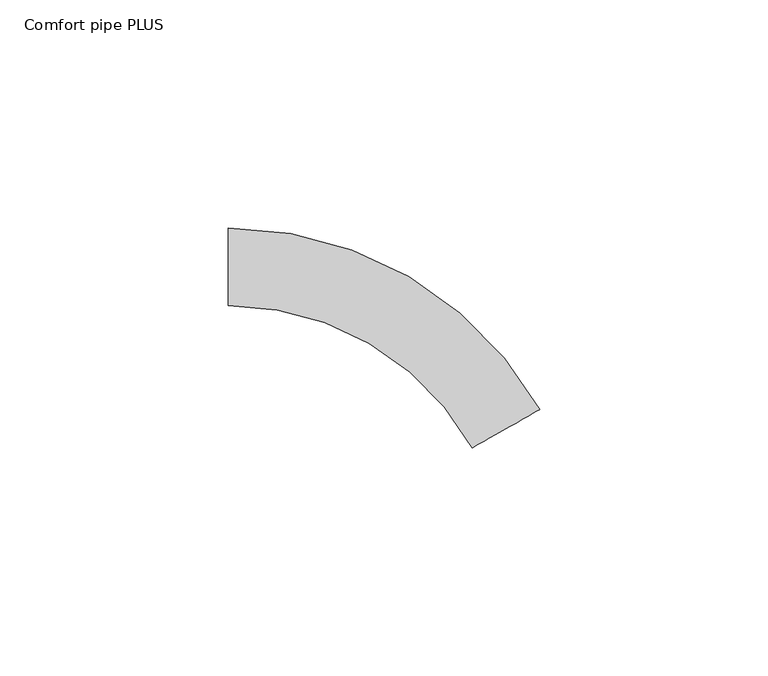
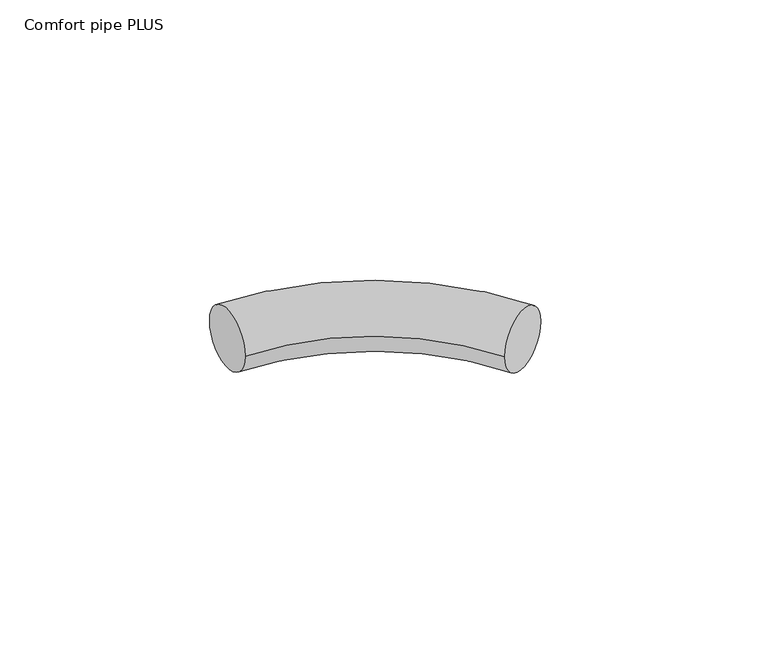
"""IFC4 building model written with IfcOpenShell, lengths in millimetres: pipe fitting geometry, 400_5-_Uponor_curved_Elbow : Comfort pipe PLUS."""

from ifc_helpers import new_model, si_unit, point, frame, origin, place, context, project, spatial, circle_curve, ellipse_curve, trimmed, source, transform, mapped, element, save
from ifc_brep_helpers import plane_surface, revolved_surface, advanced_brep


def comfort_pipe_plus_850c115f(model_context):
    return source(origin(), model_context, "Body", "AdvancedBrep", [
        advanced_brep(
        [(-40.7988442, 8.5, 0.0), (-40.7988442, -8.5, 0.0), (27.5043285, -31.3098644, 0.0), (12.7125586, -39.6886199, 0.0)],
        [
            (0, 1, circle_curve(frame((-40.7988442, 0.0, 0.0), z_axis=(-1.0, 0.0, 0.0), x_axis=(0.0, -1.0, 0.0)), 8.5)),
            (1, 0, circle_curve(frame((-40.7988442, 0.0, 0.0), z_axis=(-1.0, 0.0, 0.0), x_axis=(0.0, -1.0, 0.0)), 8.5)),
            (2, 3, circle_curve(frame((20.1084435, -35.4992421, 0.0), z_axis=(0.4928679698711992, -0.8701041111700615, 0.0), x_axis=(-0.8701041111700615, -0.4928679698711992, 0.0)), 8.5)),
            (3, 2, circle_curve(frame((20.1084435, -35.4992421, 0.0), z_axis=(0.4928679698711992, -0.8701041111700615, 0.0), x_axis=(-0.8701041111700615, -0.4928679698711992, 0.0)), 8.5)),
            (2, 0, circle_curve(frame((-40.7988442, -70.0, 0.0), z_axis=(0.0, 0.0, 1.0), x_axis=(0.0, 1.0, 0.0)), 78.5)),
            (1, 3, circle_curve(frame((-40.7988442, -70.0, 0.0), z_axis=(0.0, 0.0, -1.0), x_axis=(0.0, 1.0, 0.0)), 61.5)),
        ],
        [
            plane_surface(frame((-40.7988442, 0.0, 0.0), z_axis=(-1.0, 0.0, 0.0), x_axis=(0.0, 0.0, 1.0))),
            plane_surface(frame((20.1084435, -35.4992421, 0.0), z_axis=(0.4928679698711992, -0.8701041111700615, 0.0), x_axis=(0.0, 0.0, 1.0))),
            revolved_surface(trimmed(ellipse_curve(frame((-40.7988442, 0.0, 0.0), z_axis=(1.0, 0.0, 0.0), x_axis=(0.0, -1.0, 0.0)), 8.5, 8.5), [point((-40.7988442, 8.5, 0.0))], [point((-40.7988442, -8.5, 0.0))], True, "CARTESIAN"), (-40.7988442, -70.0, 0.0), (0.0, 0.0, 1.0)),
            revolved_surface(trimmed(ellipse_curve(frame((-40.7988442, 0.0, 0.0), z_axis=(1.0, 0.0, 0.0), x_axis=(0.0, -1.0, 0.0)), 8.5, 8.5), [point((-40.7988442, -8.5, 0.0))], [point((-40.7988442, 8.5, 0.0))], True, "CARTESIAN"), (-40.7988442, -70.0, 0.0), (0.0, 0.0, 1.0)),
        ],
        [
            (0, [[1, 2]]),
            (1, [[3, 4]]),
            (2, [[-3, 5, -2, 6]]),
            (3, [[-4, -6, -1, -5]]),
        ],
    ),
    ])


if __name__ == "__main__":
    model = new_model("IFC4")
    model_context = context("Model", 3, world=origin())
    ifc_project = project(units=[si_unit("LENGTHUNIT", "METRE", prefix="MILLI")], contexts=[model_context])
    site = spatial("IfcSite", under=ifc_project)
    building = spatial("IfcBuilding", under=site)
    placement = place(None, origin())
    comfort_pipe_plus_shape = comfort_pipe_plus_850c115f(model_context)
    element("IfcPipeFitting", 1, ObjectType="400_5-_Uponor_curved_Elbow : Comfort pipe PLUS", at=placement, inside=building, context=model_context, shape_type="MappedRepresentation", body=[
        mapped(comfort_pipe_plus_shape, transform((0.0, 0.0, 0.0), x_axis=(1.0, 0.0, 0.0), y_axis=(0.0, 1.0, 0.0), z_axis=(0.0, 0.0, 1.0))),
    ])
    save(model, "model.ifc")
